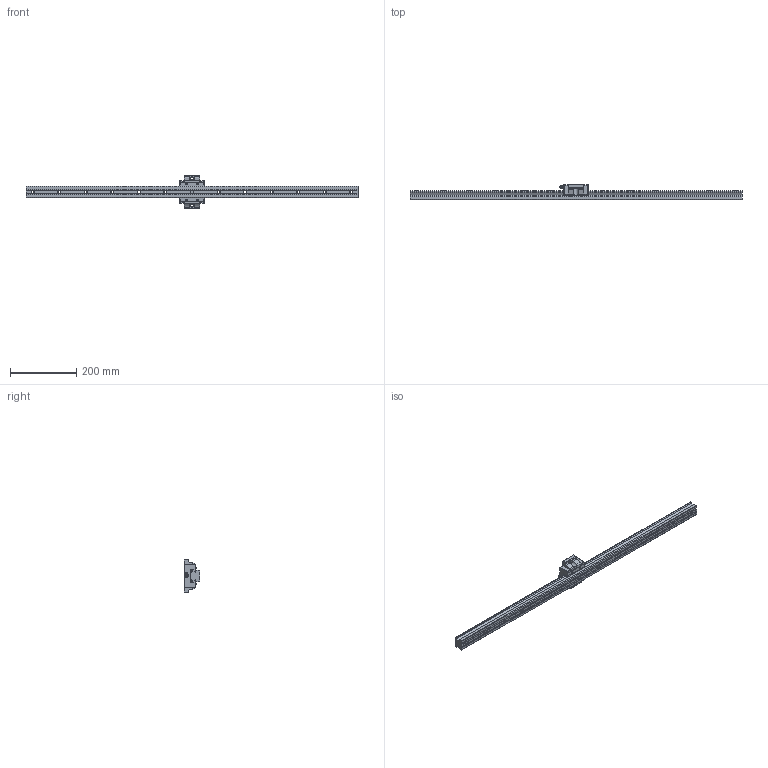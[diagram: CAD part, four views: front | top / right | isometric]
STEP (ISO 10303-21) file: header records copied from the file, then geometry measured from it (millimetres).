
FILE_DESCRIPTION(/* description */ ('STEP AP214'),/* implementation_level */ '2;1');
FILE_NAME(/* name */ 'SR35SB1SS-1000L_G20_0_B-M6F_461-2_0_0_0',/* time_stamp */ '2023-08-14T11:30:02+02:00',/* author */ ('License CC BY-ND 4.0'),/* organization */ ('CADENAS'),/* preprocessor_version */ 'ST-DEVELOPER v19.3',/* originating_system */ 'PARTsolutions',/* authorisation */ ' ');
FILE_SCHEMA (('AUTOMOTIVE_DESIGN {1 0 10303 214 3 1 1}'));
Length unit declared in the file: millimetre
Products named in the file (4): SR35SB1SS-1000L_G20_0_B-M6F_461-2_0_0_0_; SR-B-M6F_grease_nipple_joint; SR35SBSSB-M6F Slide15-150; SR35TB100020 SB Track
Assembly tree (3 placements, depth 2):
  SR35SB1SS-1000L_G20_0_B-M6F_461-2_0_0_0_
    SR-B-M6F_grease_nipple_joint
    SR35SBSSB-M6F Slide15-150
    SR35TB100020 SB Track
Bounding box: 1000 x 48 x 100 mm (x, y, z)
Volume: 953273.8 mm3; surface area: 171876.1 mm2
Topology: 3 solids, 3 shells, 282 faces, 794 edges, 523 vertices
Faces by surface type: plane 204, cylinder 56, cone 13, torus 6, sphere 3
Full cylindrical faces by diameter (mm): 4.5 x4, 4.917 x2, 6 x1, 8 x1, 9 x15, 14 x13
Entity records: 8905 total; most frequent: CARTESIAN_POINT 1631, DIRECTION 1498, ORIENTED_EDGE 1442, EDGE_CURVE 721, AXIS2_PLACEMENT_3D 517, VERTEX_POINT 504, LINE 464, VECTOR 464
